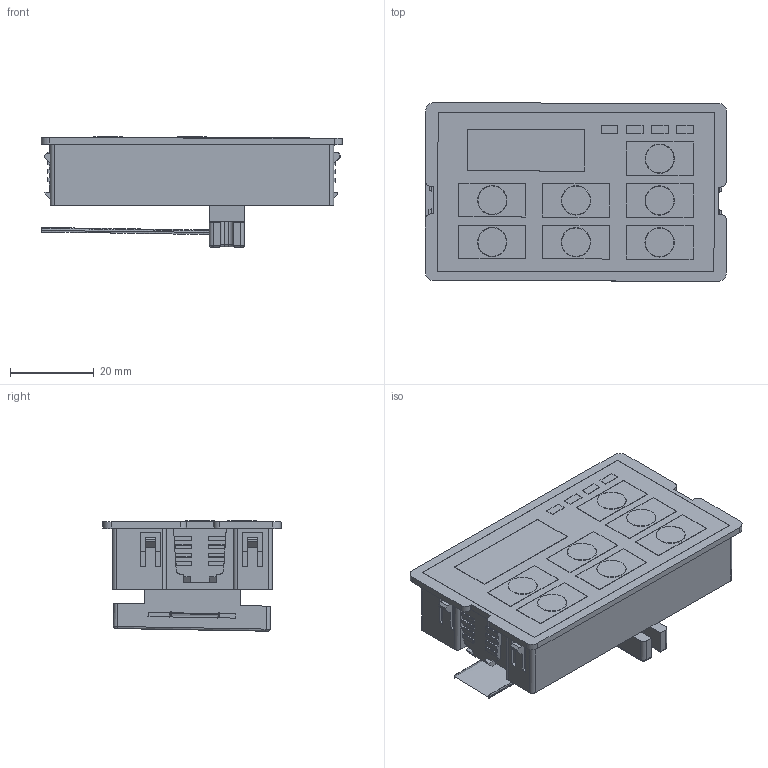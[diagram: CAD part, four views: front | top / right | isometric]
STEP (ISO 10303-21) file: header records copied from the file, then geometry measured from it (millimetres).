
FILE_DESCRIPTION(('FreeCAD Model'),'2;1');
FILE_NAME('Open CASCADE Shape Model','2022-08-31T14:21:20',( 'Engenharia Meltaltex'),('Engenharia Meltaltex'), 'Open CASCADE STEP processor 7.5','FreeCAD','Unknown');
FILE_SCHEMA(('AUTOMOTIVE_DESIGN { 1 0 10303 214 1 1 1 1 }'));
Length unit declared in the file: millimetre
Products named in the file (9): IF20-KEP + IF20-CT; Cabo; Array; Body013; Body012; Male to Male.Harness005; IF021; Placa001; Fusion001
Assembly tree (17 placements, depth 4):
  IF20-KEP + IF20-CT
    Cabo
      Array
        Body013  x10
      Body012
      Male to Male.Harness005
    IF021
      Placa001
      Fusion001
Bounding box: 72.08 x 42.63 x 26.39 mm (x, y, z)
Volume: 24340.7 mm3; surface area: 27299.3 mm2
Topology: 14 solids, 17 shells, 622 faces, 1517 edges, 965 vertices
Faces by surface type: plane 437, cylinder 165, torus 17, bspline 3
Full cylindrical faces by diameter (mm): 2 x2, 2.2 x2, 7 x7, 8 x2
Entity records: 17992 total; most frequent: CARTESIAN_POINT 3027, ORIENTED_EDGE 2810, DIRECTION 2809, EDGE_CURVE 1409, LINE 1155, VECTOR 1155, VERTEX_POINT 893, AXIS2_PLACEMENT_3D 827
